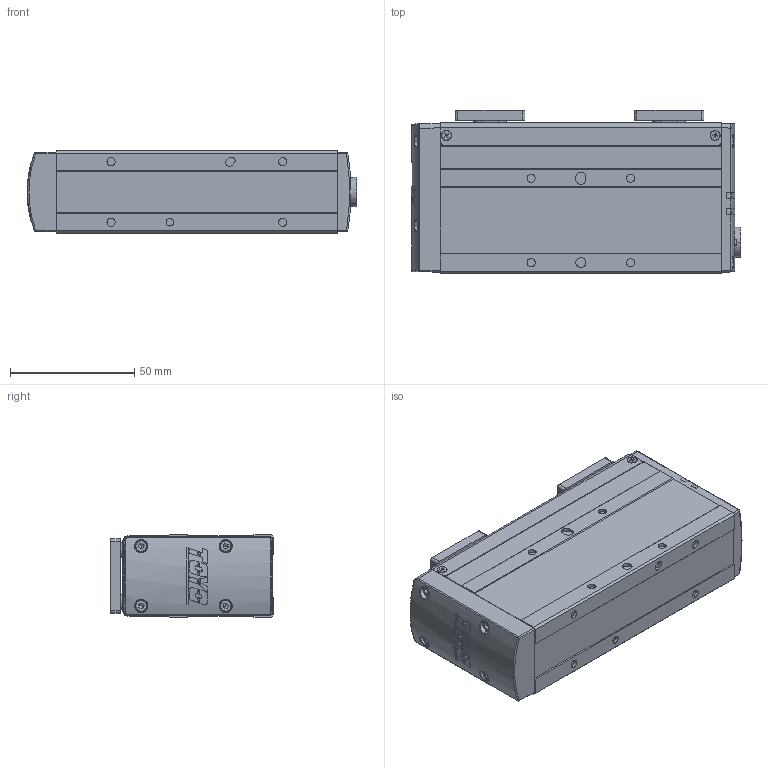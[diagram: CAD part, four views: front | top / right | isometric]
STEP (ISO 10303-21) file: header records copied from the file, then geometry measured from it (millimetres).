
FILE_DESCRIPTION (( 'STEP AP214' ), '1' );
FILE_NAME ('CHS25.STEP', '2018-10-24T08:22:32', ( 'neilchou' ), ( '' ), 'SwSTEP 2.0', 'SolidWorks 2018', '' );
FILE_SCHEMA (( 'AUTOMOTIVE_DESIGN' ));
Length unit declared in the file: millimetre
Products named in the file (12): 22119-000045; 22024-000360_預設<機器加工>; 12004-000071_預設<機器加工>; 22038-000142_預設<機器加工>; 21001-000190_12001-000193; CHS25; 22024-000357_預設<機器加工>; 22024-000363_Copy of 預設<機器加工>; ISO 4762 M2.5 x 10 - 10S_ISO 4762 M2.5 x 10 - 10S; ISO 4762 M2.5 x 6 - 6S_ISO 4762 M2.5 x 6 - 6S; ISO 4762 M3 x 10 - 10S_ISO 4762 M3 x 10 - 10S; countersunk flat head cross recess screw_iso_ISO 7046-1 - M2 x 4 - Z - 4S
Assembly tree (29 placements, depth 2):
  CHS25
    21001-000190_12001-000193
    22038-000142_預設<機器加工>
    12004-000071_預設<機器加工>  x2
    22024-000360_預設<機器加工>
    22119-000045
    countersunk flat head cross recess screw_iso_ISO 7046-1 - M2 x 4 - Z - 4S  x4
    ISO 4762 M3 x 10 - 10S_ISO 4762 M3 x 10 - 10S  x8
    ISO 4762 M2.5 x 6 - 6S_ISO 4762 M2.5 x 6 - 6S  x4
    ISO 4762 M2.5 x 10 - 10S_ISO 4762 M2.5 x 10 - 10S  x4
    22024-000363_Copy of 預設<機器加工>
    22024-000357_預設<機器加工>  x2
Bounding box: 132.5 x 65.5 x 33 mm (x, y, z)
Volume: 209899.6 mm3; surface area: 57308.3 mm2
Topology: 29 solids, 30 shells, 3394 faces, 8653 edges, 5401 vertices
Faces by surface type: cone 1453, cylinder 1009, plane 828, torus 76, bspline 28
Entity records: 48020 total; most frequent: CARTESIAN_POINT 13182, ORIENTED_EDGE 7216, DIRECTION 7152, EDGE_CURVE 3608, AXIS2_PLACEMENT_3D 2719, VERTEX_POINT 2306, VECTOR 1714, LINE 1714
